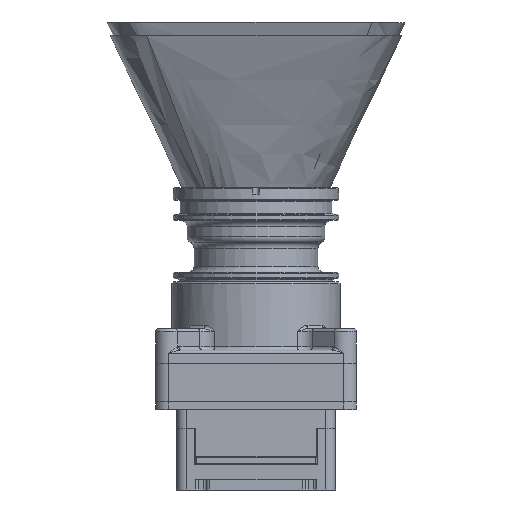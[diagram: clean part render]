
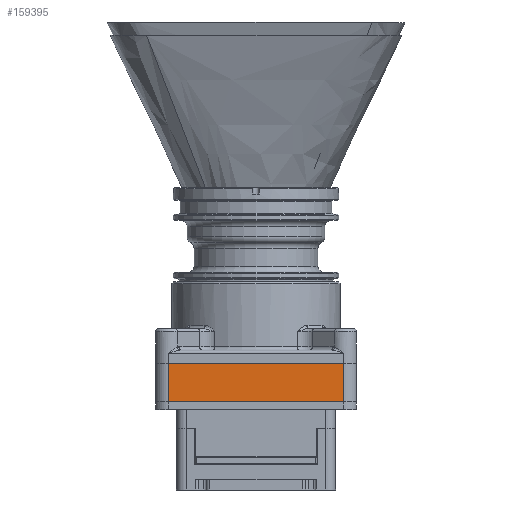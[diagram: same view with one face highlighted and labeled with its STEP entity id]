
A CAD part, front view. The second image highlights one B-rep face of the part: STEP entity #159395.
In plain terms, the highlighted planar face has unit normal (0, -1, 0).
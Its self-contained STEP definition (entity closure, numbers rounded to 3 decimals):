
#19038 = AXIS2_PLACEMENT_3D ( 'NONE', #219130, #133635, #242409 ) ;
#39587 = VERTEX_POINT ( 'NONE', #107712 ) ;
#44739 = DIRECTION ( 'NONE',  ( 1., 0., 0. ) ) ;
#59277 = CARTESIAN_POINT ( 'NONE',  ( 0., -16.1, 8.78 ) ) ;
#59319 = VERTEX_POINT ( 'NONE', #264814 ) ;
#65629 = ORIENTED_EDGE ( 'NONE', *, *, #284475, .T. ) ;
#66855 = ORIENTED_EDGE ( 'NONE', *, *, #310510, .F. ) ;
#83249 = VECTOR ( 'NONE', #266533, 1000. ) ;
#107064 = PLANE ( 'NONE',  #19038 ) ;
#107712 = CARTESIAN_POINT ( 'NONE',  ( -13.8, -16.1, 8.78 ) ) ;
#109403 = ORIENTED_EDGE ( 'NONE', *, *, #298323, .T. ) ;
#110989 = CARTESIAN_POINT ( 'NONE',  ( -13.8, -16.1, 2.78 ) ) ;
#119540 = LINE ( 'NONE', #336937, #122545 ) ;
#122545 = VECTOR ( 'NONE', #44739, 1000. ) ;
#133635 = DIRECTION ( 'NONE',  ( 0., 1., 0. ) ) ;
#150823 = EDGE_LOOP ( 'NONE', ( #65629, #109403, #241941, #66855 ) ) ;
#157792 = CARTESIAN_POINT ( 'NONE',  ( -13.8, -16.1, 8.78 ) ) ;
#159395 = ADVANCED_FACE ( 'NONE', ( #269084 ), #107064, .F. ) ;
#166991 = DIRECTION ( 'NONE',  ( 0., 0., -1. ) ) ;
#167656 = VECTOR ( 'NONE', #215996, 1000. ) ;
#180299 = VERTEX_POINT ( 'NONE', #110989 ) ;
#188621 = VERTEX_POINT ( 'NONE', #292158 ) ;
#191060 = LINE ( 'NONE', #59277, #167656 ) ;
#215996 = DIRECTION ( 'NONE',  ( 1., 0., 0. ) ) ;
#219130 = CARTESIAN_POINT ( 'NONE',  ( 0., -16.1, 8.78 ) ) ;
#241941 = ORIENTED_EDGE ( 'NONE', *, *, #316704, .F. ) ;
#242409 = DIRECTION ( 'NONE',  ( 0., 0., -1. ) ) ;
#245236 = VECTOR ( 'NONE', #166991, 1000. ) ;
#247309 = CARTESIAN_POINT ( 'NONE',  ( 13.8, -16.1, 8.78 ) ) ;
#264814 = CARTESIAN_POINT ( 'NONE',  ( 13.8, -16.1, 2.78 ) ) ;
#266533 = DIRECTION ( 'NONE',  ( 0., 0., -1. ) ) ;
#269084 = FACE_OUTER_BOUND ( 'NONE', #150823, .T. ) ;
#284475 = EDGE_CURVE ( 'NONE', #39587, #180299, #293230, .T. ) ;
#292158 = CARTESIAN_POINT ( 'NONE',  ( 13.8, -16.1, 8.78 ) ) ;
#293230 = LINE ( 'NONE', #157792, #83249 ) ;
#295417 = LINE ( 'NONE', #247309, #245236 ) ;
#298323 = EDGE_CURVE ( 'NONE', #180299, #59319, #119540, .T. ) ;
#310510 = EDGE_CURVE ( 'NONE', #39587, #188621, #191060, .T. ) ;
#316704 = EDGE_CURVE ( 'NONE', #188621, #59319, #295417, .T. ) ;
#336937 = CARTESIAN_POINT ( 'NONE',  ( 0., -16.1, 2.78 ) ) ;
